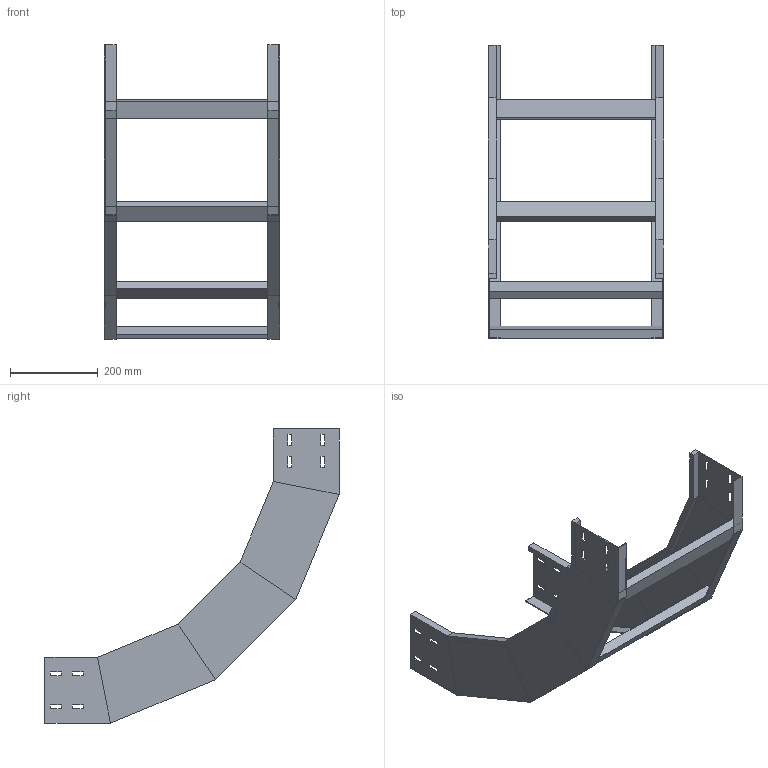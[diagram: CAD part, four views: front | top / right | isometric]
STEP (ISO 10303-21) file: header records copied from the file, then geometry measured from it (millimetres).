
FILE_DESCRIPTION (( 'STEP AP214' ), '1' );
FILE_NAME ('30J5F400.step', '2025-02-21T16:27:22', ( '' ), ( '' ), 'SwSTEP 2.0', 'SolidWorks 2023', '' );
FILE_SCHEMA (( 'AUTOMOTIVE_DESIGN' ));
Length unit declared in the file: millimetre
Products named in the file (3): 30J5F400; LONGH.SALITA_90°_H150_R500; TRAVERSINO_400
Assembly tree (6 placements, depth 2):
  30J5F400
    LONGH.SALITA_90°_H150_R500  x2
    TRAVERSINO_400  x4
Bounding box: 400 x 671.54 x 671.54 mm (x, y, z)
Volume: 2283548 mm3; surface area: 939344.2 mm2
Topology: 6 solids, 6 shells, 172 faces, 416 edges, 256 vertices
Faces by surface type: plane 172
Entity records: 2416 total; most frequent: CARTESIAN_POINT 405, ORIENTED_EDGE 392, DIRECTION 374, LINE 196, VECTOR 196, EDGE_CURVE 196, VERTEX_POINT 120, EDGE_LOOP 96
